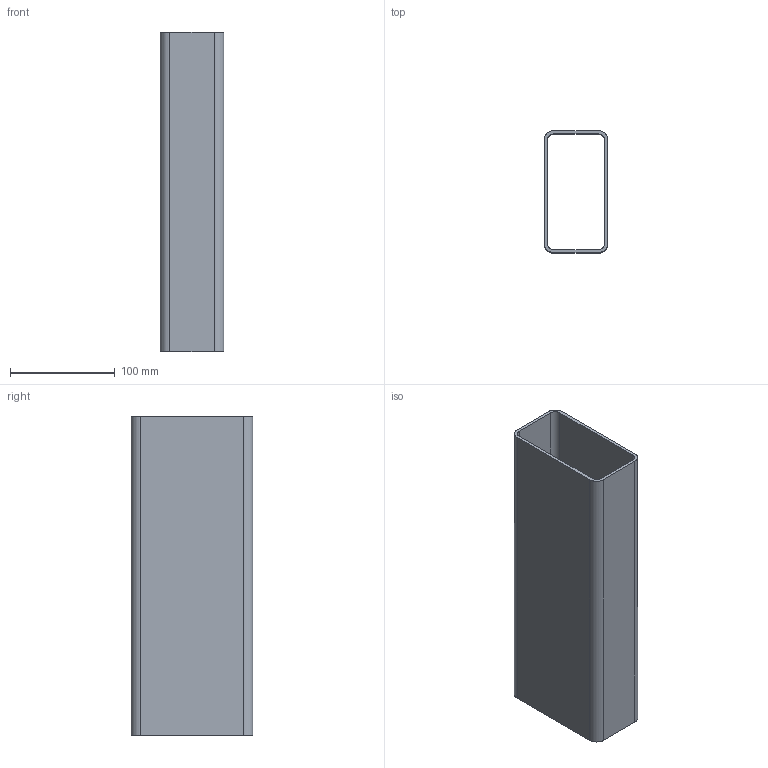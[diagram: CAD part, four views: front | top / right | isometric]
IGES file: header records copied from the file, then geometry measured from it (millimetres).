
Start section: SolidWorks IGES file using analytic representation for surfaces
Global section: file name: O:\_New Design Drive Folder List\_Design Vault\AAI\Tubing 1-6\SolidWorks Models\2x4Tube_0.120Wall.IGS; native system: SolidWorks 2013; preprocessor: SolidWorks 2013; author: mgriswold; date: 130822.131638; units: inch
Bounding box: 60.71 x 116.41 x 304.8 mm (x, y, z)
Surface area: 202696.9 mm2 (no closed solid volume)
Topology: 0 solids, 0 shells, 18 faces, 208 edges, 208 vertices
Faces by surface type: bspline 10, revolution 8
